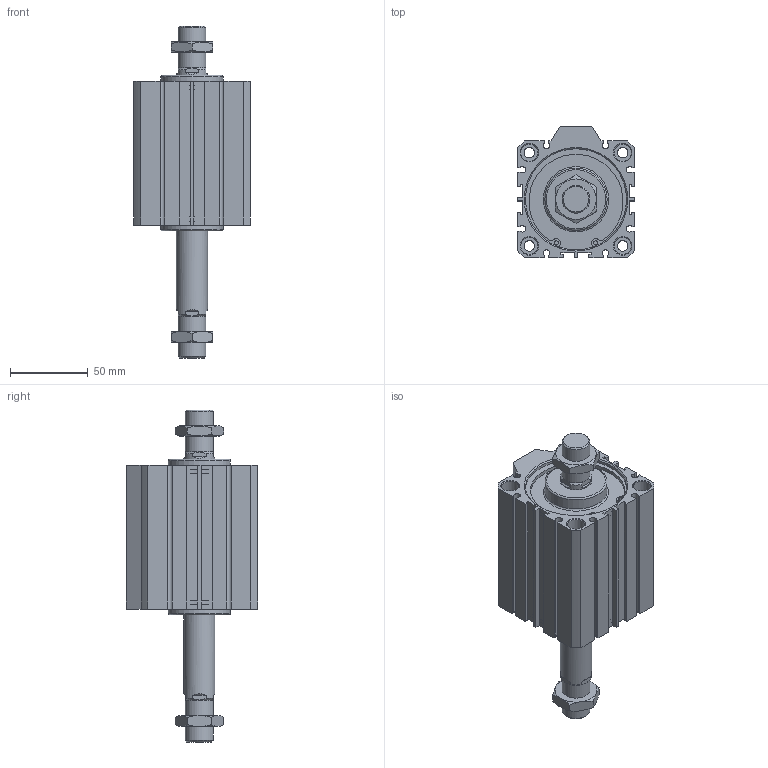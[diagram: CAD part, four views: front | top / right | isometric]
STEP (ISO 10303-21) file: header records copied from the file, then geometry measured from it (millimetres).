
FILE_DESCRIPTION((''),'2;1');
FILE_NAME('I:\3D電子目錄\氣缸\JDD\JDD-BS\JDD63-BS\JDD63x50-BS.stp','2007-02-27T15:19:59',('662F206'),(''),'Autodesk Inventor 10','Autodesk Inventor 10','');
FILE_SCHEMA(('AUTOMOTIVE_DESIGN { 1 0 10303 214 1 1 1 1 }'));
Length unit declared in the file: millimetre
Products named in the file (3): JDD63-BS; R 形環 65
Assembly tree (3 placements, depth 2):
  JDD63-BS
    JDD63-BS
    R 形環 65  x2
Bounding box: 75 x 84.5 x 213.5 mm (x, y, z)
Volume: 520073.8 mm3; surface area: 79691.7 mm2
Topology: 3 solids, 3 shells, 230 faces, 558 edges, 360 vertices
Faces by surface type: plane 132, cylinder 56, cone 38, bspline 2, torus 2
Full cylindrical faces by diameter (mm): 2.7 x4, 3 x2, 6.8 x4, 11 x8, 18 x4, 20 x2, 40 x2, 65 x4, 68 x2
Entity records: 6147 total; most frequent: CARTESIAN_POINT 1216, DIRECTION 1012, ORIENTED_EDGE 936, EDGE_CURVE 468, AXIS2_PLACEMENT_3D 374, VERTEX_POINT 332, EDGE_LOOP 308, VECTOR 264
